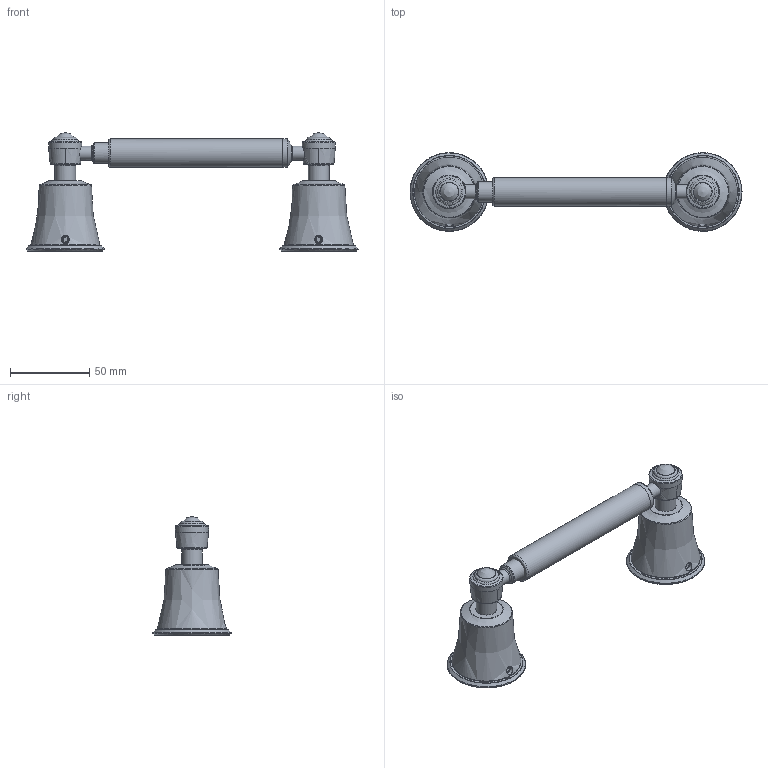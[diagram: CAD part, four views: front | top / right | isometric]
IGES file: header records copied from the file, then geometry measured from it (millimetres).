
Global section: file name: e56ab815-7c86-4ffb-a86a-7a32a8b81229; native system: unknown; preprocessor: unknown; author: unknown; organization: unknown; date: 20200107.143140; units: millimetre
Bounding box: 209.58 x 49.59 x 75 mm (x, y, z)
Volume: 141730.1 mm3; surface area: 35041.5 mm2
Topology: 10 solids, 10 shells, 125 faces, 315 edges, 220 vertices
Faces by surface type: bspline 125
